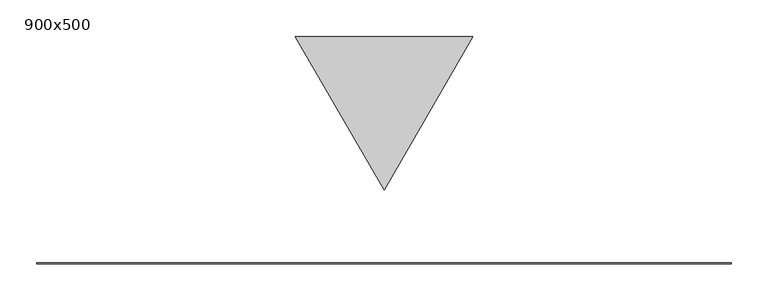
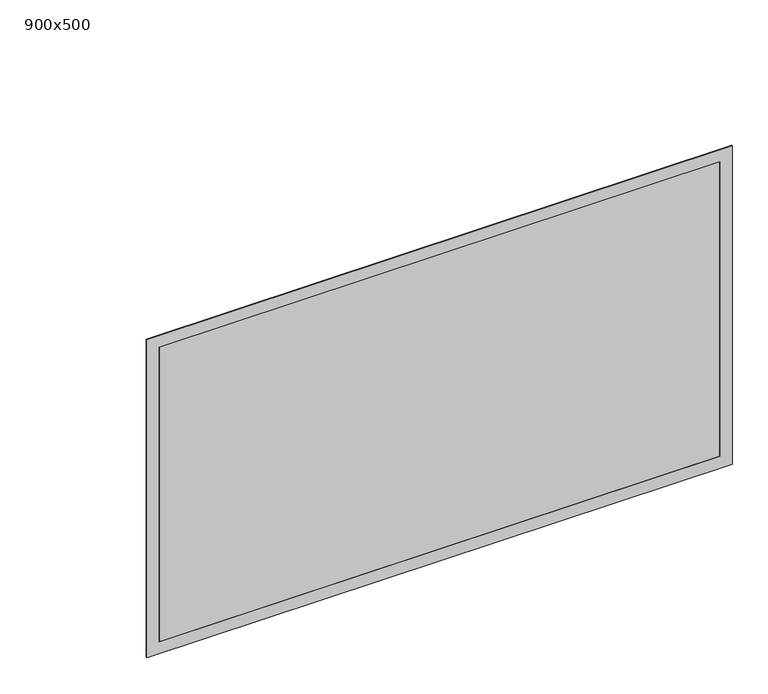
"""IFC4 building model written with IfcOpenShell, lengths in millimetres: air terminal geometry, Решетка декоративная exhaust : 900x500."""

from ifc_helpers import new_model, si_unit, frame, origin, place, context, project, spatial, polyline, outline, extrude, source, transform, mapped, element, save


def air_terminal_900x500_806de17a(model_context):
    return source(origin(), model_context, "Body", "SweptSolid", [
        extrude(outline(polyline([(-120.0, 307.8460969), (0.0, 307.8460969), (120.0, 307.8460969), (0.0, 100.0), (-120.0, 307.8460969)])), frame((0.0, 0.0, -1.0), z_axis=(0.0, 0.0, 1.0), x_axis=(1.0, 0.0, 0.0)), (0.0, 0.0, 1.0), 2.0),
        extrude(outline(polyline([(270.0, 470.0), (270.0, -470.0), (-270.0, -470.0), (-270.0, 470.0), (270.0, 470.0)]), holes=[polyline([(250.0, 450.0), (-250.0, 450.0), (-250.0, -450.0), (250.0, -450.0), (250.0, 450.0)])]), frame((0.0, 0.0, 0.0), z_axis=(0.0, 1.0, 0.0), x_axis=(0.0, 0.0, 1.0)), (0.0, 0.0, 1.0), 1.5),
        extrude(outline(polyline([(450.0, 0.0), (-450.0, 0.0), (-450.0, 1.5), (450.0, 1.5), (450.0, 0.0)])), frame((0.0, 0.0, -250.0), z_axis=(0.0, 0.0, 1.0), x_axis=(1.0, 0.0, 0.0)), (0.0, 0.0, 1.0), 500.0),
    ])


if __name__ == "__main__":
    model = new_model("IFC4")
    model_context = context("Model", 3, world=origin())
    ifc_project = project(units=[si_unit("LENGTHUNIT", "METRE", prefix="MILLI")], contexts=[model_context])
    site = spatial("IfcSite", under=ifc_project)
    building = spatial("IfcBuilding", under=site)
    placement = place(None, origin())
    air_terminal_900x500_shape = air_terminal_900x500_806de17a(model_context)
    element("IfcAirTerminal", 1, ObjectType="Решетка декоративная exhaust : 900x500", at=placement, inside=building, context=model_context, shape_type="MappedRepresentation", body=[
        mapped(air_terminal_900x500_shape, transform((0.0, 0.0, 0.0), x_axis=(1.0, 0.0, 0.0), y_axis=(0.0, 1.0, 0.0), z_axis=(0.0, 0.0, 1.0))),
    ])
    save(model, "model.ifc")
